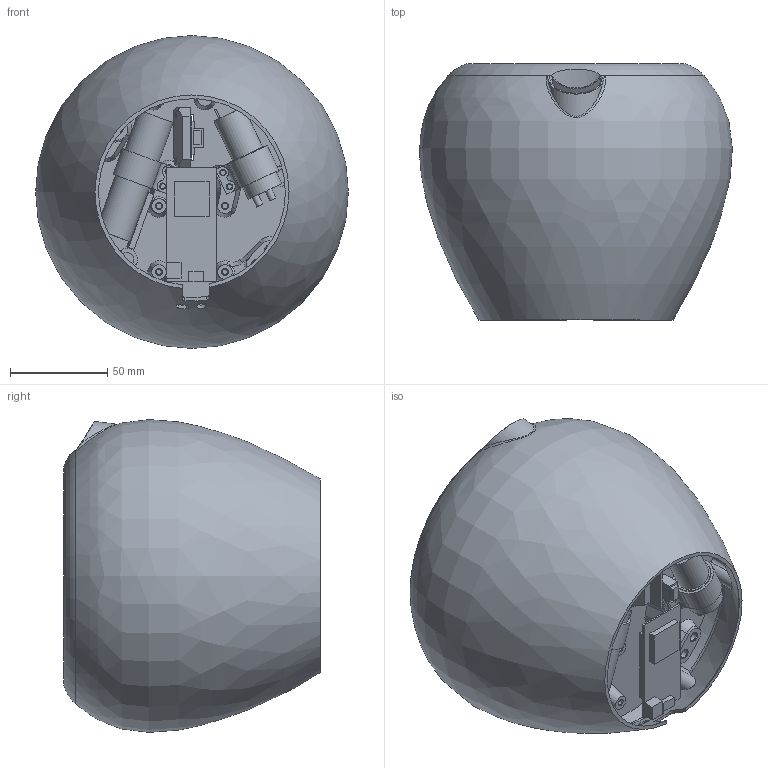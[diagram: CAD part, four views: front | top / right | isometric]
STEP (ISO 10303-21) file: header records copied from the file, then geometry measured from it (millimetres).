
FILE_DESCRIPTION(/* description */ (''),/* implementation_level */ '2;1');
FILE_NAME(/* name */ 'C:\Users\uhlma\OneDrive\Flaura\Produktentwicklung\Gehaeuse\CAD-Konstruktion\Prototyp 9\Thingiverse_Upload\Inventor\Assambly_Flaura.stp',/* time_stamp */ '2021-07-25T11:46:36+02:00',/* author */ ('uhlma'),/* organization */ (''),/* preprocessor_version */ 'ST-DEVELOPER v18',/* originating_system */ 'Autodesk Inventor 2020',/* authorisation */ '');
FILE_SCHEMA (('AUTOMOTIVE_DESIGN { 1 0 10303 214 3 1 1 }'));
Length unit declared in the file: millimetre
Products named in the file (11): ZSB_210324; Topf_gesamt_210715; Topf_Boden_210715; Pumpe_Dummy; CSM_Sensor_Dummy; Dummy_ESP32_LOLIN_D32; LiPo_Akku_18650_Dummy; Platine_WEMOS_LOLIN32_210403; Halterung_Pumpe_210403; Halterung_Akku_210403; Wasserlevel_Kabelhalter_210403
Assembly tree (10 placements, depth 2):
  ZSB_210324
    Topf_gesamt_210715
    Topf_Boden_210715
    Pumpe_Dummy
    CSM_Sensor_Dummy
    Dummy_ESP32_LOLIN_D32
    LiPo_Akku_18650_Dummy
    Platine_WEMOS_LOLIN32_210403
    Halterung_Pumpe_210403
    Halterung_Akku_210403
    Wasserlevel_Kabelhalter_210403
Bounding box: 161.11 x 132 x 161.13 mm (x, y, z)
Volume: 272917.5 mm3; surface area: 250940.1 mm2
Topology: 36 solids, 36 shells, 895 faces, 2265 edges, 1465 vertices
Faces by surface type: plane 413, cylinder 234, bspline 166, cone 43, torus 27, sphere 12
Full cylindrical faces by diameter (mm): 2.7 x20, 2.8 x2, 3.3 x20, 3.5 x2, 4.5 x2, 5 x1, 6.5 x1, 7.5 x1, 7.6 x1, 12.1 x1, 17 x1, 18.6 x1, 19 x1, 112.765 x1, 130 x1
Entity records: 35356 total; most frequent: CARTESIAN_POINT 13935, ORIENTED_EDGE 4502, DIRECTION 4062, EDGE_CURVE 2251, AXIS2_PLACEMENT_3D 1473, VERTEX_POINT 1466, LINE 1116, VECTOR 1116
